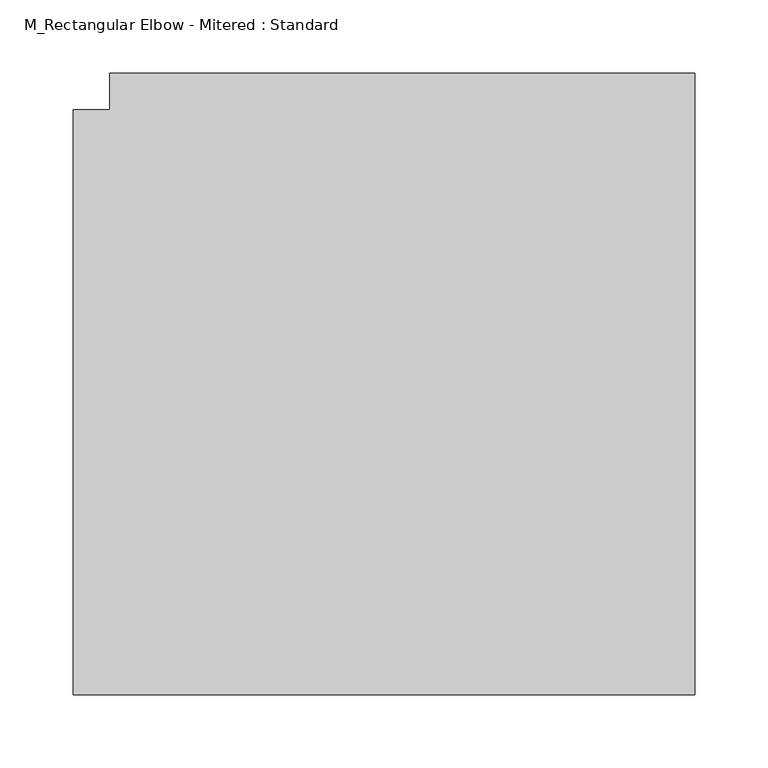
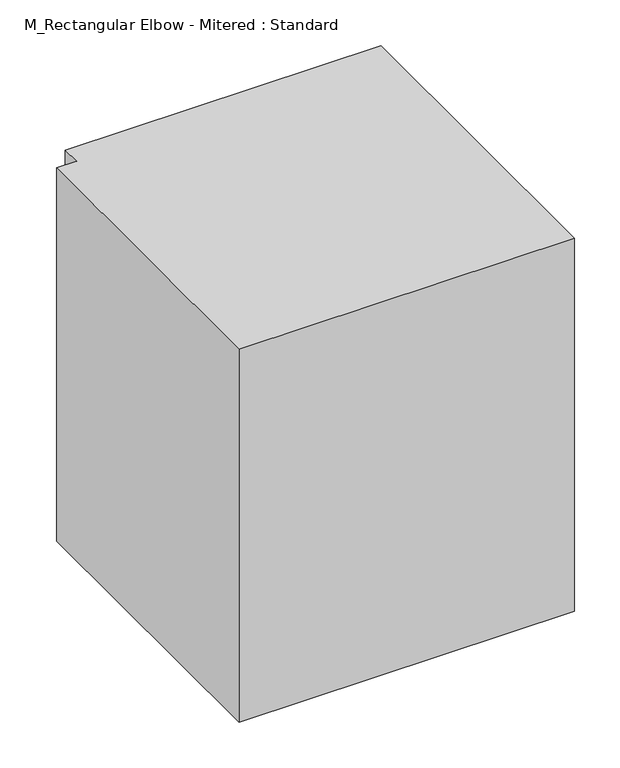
"""IFC4 building model written with IfcOpenShell, lengths in millimetres: duct fitting geometry, M_Rectangular Elbow - Mitered : Standard."""

from ifc_helpers import new_model, si_unit, frame, origin, place, context, project, spatial, polyline, outline, extrude, source, transform, mapped, element, save


def m_rectangular_elbow_mitered_standard_b8a34dab(model_context):
    return source(origin(), model_context, "Body", "SweptSolid", [
        extrude(outline(polyline([(-225.0, -200.0), (-225.0, 200.0), (-200.0, 200.0), (-200.0, 225.0), (200.0, 225.0), (200.0, -200.0), (-225.0, -200.0)])), frame((0.0, 0.0, -250.0), z_axis=(0.0, 0.0, 1.0), x_axis=(1.0, 0.0, 0.0)), (0.0, 0.0, 1.0), 500.0),
        extrude(outline(polyline([(-225.0, -200.0), (-225.0, 200.0), (-200.0, 200.0), (-200.0, 225.0), (200.0, 225.0), (200.0, -200.0), (-225.0, -200.0)])), frame((0.0, 0.0, -250.0), z_axis=(0.0, 0.0, 1.0), x_axis=(1.0, 0.0, 0.0)), (0.0, 0.0, 1.0), 500.0),
        extrude(outline(polyline([(-225.0, -200.0), (-225.0, 200.0), (-200.0, 200.0), (-200.0, 225.0), (200.0, 225.0), (200.0, -200.0), (-225.0, -200.0)])), frame((0.0, 0.0, -250.0), z_axis=(0.0, 0.0, 1.0), x_axis=(1.0, 0.0, 0.0)), (0.0, 0.0, 1.0), 500.0),
    ])


if __name__ == "__main__":
    model = new_model("IFC4")
    model_context = context("Model", 3, world=origin())
    ifc_project = project(units=[si_unit("LENGTHUNIT", "METRE", prefix="MILLI")], contexts=[model_context])
    site = spatial("IfcSite", under=ifc_project)
    building = spatial("IfcBuilding", under=site)
    placement = place(None, origin())
    m_rectangular_elbow_mitered_standard_shape = m_rectangular_elbow_mitered_standard_b8a34dab(model_context)
    element("IfcDuctFitting", 1, ObjectType="M_Rectangular Elbow - Mitered : Standard", at=placement, inside=building, context=model_context, shape_type="MappedRepresentation", body=[
        mapped(m_rectangular_elbow_mitered_standard_shape, transform((0.0, 0.0, 0.0), x_axis=(1.0, 0.0, 0.0), y_axis=(0.0, 1.0, 0.0), z_axis=(0.0, 0.0, 1.0))),
    ])
    save(model, "model.ifc")
